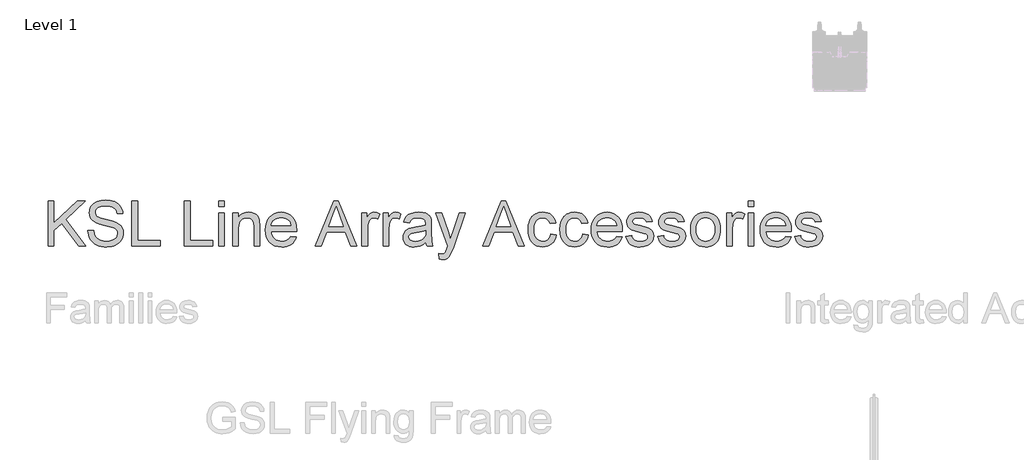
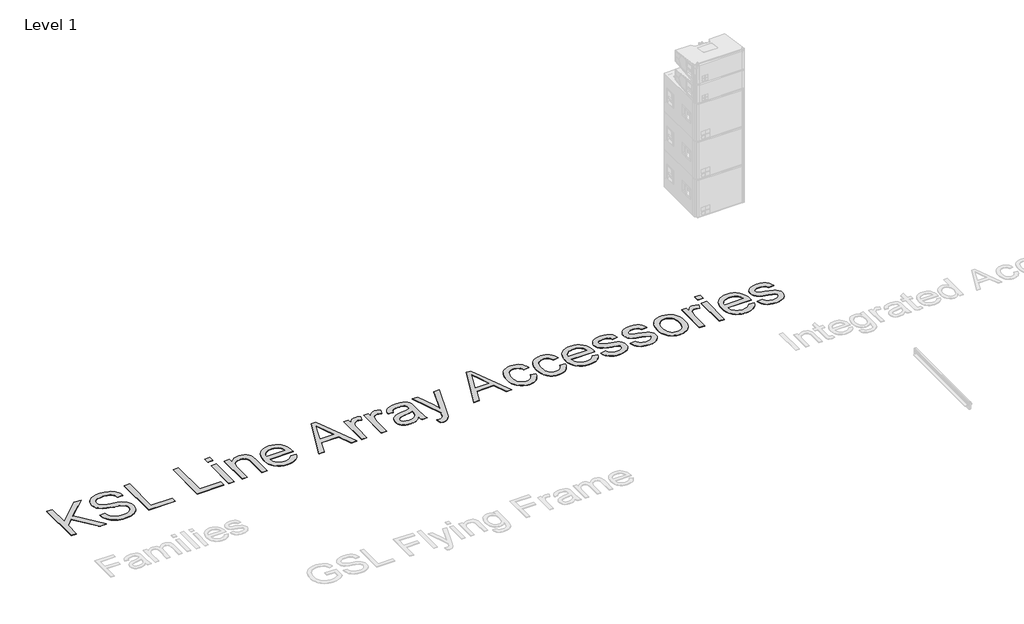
# One storey, part 14 of 52: 1 proxy.
"""IFC4 building model written with IfcOpenShell, lengths in millimetres."""

from ifc_helpers import new_model, si_unit, origin, origin_with_axes, place, context, project, spatial, polyline, outline, extrude, element, save

model = new_model("IFC4")

# Units and contexts
model_context = context("Model", 3, world=origin())
ifc_project = project(units=[si_unit("LENGTHUNIT", "METRE", prefix="MILLI")], contexts=[model_context])

# Site, building, storey
site = spatial("IfcSite", under=ifc_project)
building = spatial("IfcBuilding", under=site)
storey = spatial("IfcBuildingStorey", under=building, Name="Level 1", Elevation=0.0)

# Proxy
placement = place(None, origin())
element("IfcBuildingElementProxy", 1, Name="600mm Arial", ObjectType="600mm Arial", at=placement, inside=storey, context=model_context, shape_type="SweptSolid", body=[
    extrude(outline(polyline([(-21034.9539913, -48567.5695164), (-21034.9539913, -47976.8002857), (-20961.1078374, -47976.8002857), (-20961.1078374, -48265.982978), (-20658.223222, -47976.8002857), (-20554.9539913, -47976.8002857), (-20809.2328374, -48219.684901), (-20545.723222, -48567.5695164), (-20636.0116836, -48567.5695164), (-20861.5886067, -48269.5887472), (-20961.1078374, -48364.4925934), (-20961.1078374, -48567.5695164), (-21034.9539913, -48567.5695164)])), origin_with_axes(), (0.0, 0.0, 1.0), 5.0),
    extrude(outline(polyline([(-20518.0309143, -48364.4925934), (-20444.1847605, -48364.4925934), (-20435.7112028, -48405.4721607), (-20420.3866836, -48438.4108626), (-20396.4804336, -48464.5526895), (-20362.2616836, -48485.1416318), (-20320.4347605, -48498.5010068), (-20273.7039913, -48502.9541318), (-20232.5621643, -48499.5827376), (-20196.5405297, -48489.4685549), (-20167.3518278, -48473.4589395), (-20146.708799, -48452.4012472), (-20134.4311547, -48428.2245645), (-20130.3386067, -48402.857978), (-20133.4035105, -48378.1404299), (-20142.598222, -48356.7762472), (-20161.2761067, -48338.5490837), (-20192.7905297, -48323.2425934), (-20300.3145682, -48295.045478), (-20370.8975009, -48276.3856222), (-20416.0597605, -48258.6272087), (-20452.8205778, -48233.7834587), (-20478.8722605, -48203.6752857), (-20494.395097, -48168.951728), (-20499.5693759, -48130.2618241), (-20497.9693158, -48108.271139), (-20493.1691355, -48087.0106222), (-20485.168835, -48066.4802736), (-20473.9684143, -48046.6800934), (-20459.6940754, -48028.4168722), (-20442.4720201, -48012.497401), (-20422.3022485, -47998.9216799), (-20399.1847605, -47987.6897087), (-20347.2256259, -47972.5995645), (-20289.7136067, -47967.5695164), (-20227.4059143, -47972.8339395), (-20172.8866836, -47988.6272087), (-20149.0345201, -48000.3910309), (-20128.1030297, -48014.6248049), (-20110.0922124, -48031.3285309), (-20095.0020682, -48050.5022087), (-20082.9497845, -48071.5869443), (-20074.052549, -48094.0238434), (-20068.3103615, -48117.8129059), (-20065.723222, -48142.9541318), (-20139.5693759, -48142.9541318), (-20144.5092797, -48119.3904299), (-20153.1270682, -48098.8916318), (-20165.4227413, -48081.4577376), (-20181.396299, -48067.0887472), (-20201.3452172, -48055.856776), (-20225.566972, -48047.8339395), (-20254.0615634, -48043.0202376), (-20286.8289913, -48041.4156703), (-20320.6420922, -48043.0022087), (-20349.5333182, -48047.7618241), (-20373.5026692, -48055.6945164), (-20392.5501451, -48066.8002857), (-20407.0633663, -48080.1506462), (-20417.4299528, -48094.8171126), (-20423.6499047, -48110.7996847), (-20425.723222, -48128.0983626), (-20419.8458182, -48156.4757664), (-20402.2136067, -48179.3002857), (-20386.0237028, -48189.450526), (-20360.5309143, -48199.7089395), (-20281.6366836, -48220.5502857), (-20200.2184143, -48240.3459587), (-20150.9636067, -48257.6175934), (-20108.8662509, -48284.4084587), (-20092.59071, -48300.1566559), (-20079.4972605, -48317.4733626), (-20069.4326571, -48336.2684347), (-20062.2436547, -48356.451728), (-20056.4924528, -48400.982978), (-20058.1465994, -48424.0824371), (-20063.1090393, -48446.5058145), (-20071.3797725, -48468.2531102), (-20082.958799, -48489.3243241), (-20097.6432942, -48508.903651), (-20115.2304336, -48526.1752857), (-20135.7202172, -48541.139228), (-20159.1126451, -48553.795478), (-20184.7271283, -48563.8600813), (-20211.8830778, -48571.0490837), (-20270.8193759, -48576.8002857), (-20308.5943158, -48575.2498049), (-20343.1691355, -48570.5983626), (-20374.543835, -48562.8459587), (-20402.7184143, -48551.9925934), (-20427.8641475, -48538.0202376), (-20450.1523086, -48520.9108626), (-20469.5828975, -48500.6644684), (-20486.1559143, -48477.2810549), (-20499.5062749, -48451.5178337), (-20509.2688951, -48424.1320164), (-20515.4437749, -48395.123603), (-20518.0309143, -48364.4925934)])), origin_with_axes(), (0.0, 0.0, 1.0), 5.0),
    extrude(outline(polyline([(-19945.723222, -48567.5695164), (-19945.723222, -47976.8002857), (-19871.8770682, -47976.8002857), (-19871.8770682, -48493.7233626), (-19576.4924528, -48493.7233626), (-19576.4924528, -48567.5695164), (-19945.723222, -48567.5695164)])), origin_with_axes(), (0.0, 0.0, 1.0), 5.0),
    extrude(outline(polyline([(-19262.646299, -48567.5695164), (-19262.646299, -47976.8002857), (-19188.8001451, -47976.8002857), (-19188.8001451, -48493.7233626), (-18893.4155297, -48493.7233626), (-18893.4155297, -48567.5695164), (-19262.646299, -48567.5695164)])), origin_with_axes(), (0.0, 0.0, 1.0), 5.0),
    extrude(outline(polyline([(-18819.5693759, -48050.6464395), (-18819.5693759, -47976.8002857), (-18745.723222, -47976.8002857), (-18745.723222, -48050.6464395), (-18819.5693759, -48050.6464395)])), origin_with_axes(), (0.0, 0.0, 1.0), 5.0),
    extrude(outline(polyline([(-18819.5693759, -48567.5695164), (-18819.5693759, -48133.7233626), (-18745.723222, -48133.7233626), (-18745.723222, -48567.5695164), (-18819.5693759, -48567.5695164)])), origin_with_axes(), (0.0, 0.0, 1.0), 5.0),
    extrude(outline(polyline([(-18634.9539913, -48567.5695164), (-18634.9539913, -48133.7233626), (-18561.1078374, -48133.7233626), (-18561.1078374, -48194.3002857), (-18535.4527893, -48163.7594203), (-18504.6414913, -48141.9445164), (-18468.6739432, -48128.8555741), (-18427.5501451, -48124.4925934), (-18391.1499047, -48128.0082184), (-18357.8145682, -48138.5550934), (-18330.0140874, -48154.8171126), (-18310.2184143, -48175.4781703), (-18296.786924, -48200.4841799), (-18288.0789913, -48229.7810549), (-18284.1847605, -48301.1752857), (-18284.1847605, -48567.5695164), (-18358.0309143, -48567.5695164), (-18358.0309143, -48311.1272087), (-18360.1583182, -48272.9421126), (-18366.5405297, -48245.7906703), (-18378.3133663, -48226.3375453), (-18396.6126451, -48211.247401), (-18420.068174, -48201.5659107), (-18447.3097605, -48198.3387472), (-18469.7331379, -48200.1506462), (-18490.5609624, -48205.5863434), (-18509.7932341, -48214.6458385), (-18527.4299528, -48227.3291318), (-18542.1640273, -48245.0785309), (-18552.6883663, -48269.3363434), (-18559.0029696, -48300.1025693), (-18561.1078374, -48337.3772087), (-18561.1078374, -48567.5695164), (-18634.9539913, -48567.5695164)])), origin_with_axes(), (0.0, 0.0, 1.0), 5.0),
    extrude(outline(polyline([(-17878.896299, -48438.3387472), (-17806.4924528, -48447.5695164), (-17817.5937148, -48476.5689155), (-17832.5801932, -48502.1248049), (-17851.4518879, -48524.2371847), (-17874.208799, -48542.9060549), (-17900.6165514, -48557.7347809), (-17930.4407701, -48568.326728), (-17963.6814552, -48574.6818962), (-18000.3386067, -48576.8002857), (-18046.1589192, -48573.1449371), (-18086.9852413, -48562.1788914), (-18122.817573, -48543.9021486), (-18153.6559143, -48518.3147087), (-18178.4545922, -48486.1287111), (-18196.1679336, -48448.0562953), (-18206.7959384, -48404.0974611), (-18210.3386067, -48354.2522087), (-18206.7598807, -48302.716752), (-18196.0237028, -48257.2930741), (-18178.130073, -48217.9811751), (-18153.0789913, -48184.7810549), (-18122.3217797, -48158.404853), (-18087.3097605, -48139.5647087), (-18048.0429336, -48128.2606222), (-18004.521299, -48124.4925934), (-17962.4014071, -48128.2516078), (-17924.3109624, -48139.528651), (-17890.2499648, -48158.3237232), (-17860.2184143, -48184.6368241), (-17835.7036908, -48217.7648289), (-17818.193174, -48257.0046126), (-17807.6868639, -48302.3561751), (-17804.1847605, -48353.8195164), (-17804.6174528, -48373.7233626), (-18136.4924528, -48373.7233626), (-18132.2151091, -48403.1915116), (-18123.7100009, -48428.9998049), (-18110.9771283, -48451.1482424), (-18094.0164913, -48469.6368241), (-18073.7655898, -48484.2131462), (-18051.161924, -48494.6248049), (-18026.2054937, -48500.8718001), (-17998.896299, -48502.9541318), (-17959.5934143, -48499.0959587), (-17926.4924528, -48487.5214395), (-17899.5934143, -48467.5094203), (-17878.896299, -48438.3387472)]), holes=[polyline([(-18136.4924528, -48299.8772087), (-17878.0309143, -48299.8772087), (-17888.0188951, -48260.8627857), (-17896.6096403, -48245.5202376), (-17907.598222, -48232.9541318), (-17927.7364432, -48217.809901), (-17950.6511067, -48206.9925934), (-17976.3422124, -48200.5022087), (-18004.8097605, -48198.3387472), (-18030.7758062, -48200.0650092), (-18054.5874047, -48205.2437953), (-18076.2445562, -48213.8751054), (-18095.7472605, -48225.9589395), (-18112.1129456, -48240.9364034), (-18124.3590393, -48258.248603), (-18132.4855417, -48277.8955381), (-18136.4924528, -48299.8772087)])]), origin_with_axes(), (0.0, 0.0, 1.0), 5.0),
    extrude(outline(polyline([(-17559.1366836, -48567.5695164), (-17323.3193759, -47976.8002857), (-17260.4347605, -47976.8002857), (-17024.6174528, -48567.5695164), (-17102.646299, -48567.5695164), (-17170.2905297, -48382.9541318), (-17413.6078374, -48382.9541318), (-17481.1078374, -48567.5695164), (-17559.1366836, -48567.5695164)]), holes=[polyline([(-17386.4924528, -48309.107978), (-17197.2616836, -48309.107978), (-17250.4828374, -48163.8675934), (-17291.8770682, -48050.6464395), (-17328.6559143, -48151.1752857), (-17386.4924528, -48309.107978)])]), origin_with_axes(), (0.0, 0.0, 1.0), 5.0),
    extrude(outline(polyline([(-16954.9539913, -48567.5695164), (-16954.9539913, -48133.7233626), (-16890.3386067, -48133.7233626), (-16890.3386067, -48197.9060549), (-16866.4684143, -48160.6945164), (-16844.473222, -48138.7714395), (-16822.4059143, -48128.0623049), (-16798.3193759, -48124.4925934), (-16761.5405297, -48130.1897087), (-16724.1847605, -48147.2810549), (-16748.848222, -48213.482978), (-16774.8097605, -48202.1248049), (-16800.771299, -48198.3387472), (-16822.8205778, -48201.9805741), (-16842.5261067, -48212.9060549), (-16858.4455778, -48230.2858626), (-16869.1366836, -48253.2906703), (-16878.115049, -48294.5406703), (-16881.1078374, -48339.5406703), (-16881.1078374, -48567.5695164), (-16954.9539913, -48567.5695164)])), origin_with_axes(), (0.0, 0.0, 1.0), 5.0),
    extrude(outline(polyline([(-16678.0309143, -48567.5695164), (-16678.0309143, -48133.7233626), (-16613.4155297, -48133.7233626), (-16613.4155297, -48197.9060549), (-16589.5453374, -48160.6945164), (-16567.5501451, -48138.7714395), (-16545.4828374, -48128.0623049), (-16521.396299, -48124.4925934), (-16484.6174528, -48130.1897087), (-16447.2616836, -48147.2810549), (-16471.9251451, -48213.482978), (-16497.8866836, -48202.1248049), (-16523.848222, -48198.3387472), (-16545.8975009, -48201.9805741), (-16565.6030297, -48212.9060549), (-16581.5225009, -48230.2858626), (-16592.2136067, -48253.2906703), (-16601.191972, -48294.5406703), (-16604.1847605, -48339.5406703), (-16604.1847605, -48567.5695164), (-16678.0309143, -48567.5695164)])), origin_with_axes(), (0.0, 0.0, 1.0), 5.0),
    extrude(outline(polyline([(-16124.1847605, -48512.184901), (-16159.4672124, -48542.4373049), (-16195.7953374, -48562.232978), (-16233.9984624, -48573.1584587), (-16274.9059143, -48576.8002857), (-16307.7860225, -48574.6097809), (-16336.6186547, -48568.0382664), (-16361.403811, -48557.0857424), (-16382.1414913, -48541.7522087), (-16398.5161908, -48523.0112232), (-16410.2124047, -48501.8363434), (-16417.2301331, -48478.2275693), (-16419.5693759, -48452.184901), (-16416.035722, -48421.5719203), (-16405.4347605, -48393.7714395), (-16389.082597, -48369.9733626), (-16368.2953374, -48351.3675934), (-16343.8662509, -48337.3050934), (-16316.5886067, -48327.1368241), (-16252.6943759, -48316.0310549), (-16177.1895682, -48304.3483626), (-16124.6174528, -48290.6464395), (-16124.1847605, -48274.2041318), (-16129.2688951, -48241.247401), (-16135.6240634, -48229.0418722), (-16144.521299, -48219.684901), (-16159.8999047, -48210.3459587), (-16178.6318759, -48203.6752857), (-16226.1559143, -48198.3387472), (-16270.146299, -48201.8904299), (-16300.8674528, -48212.545478), (-16321.816972, -48232.2510068), (-16336.4924528, -48262.9541318), (-16410.3386067, -48253.7233626), (-16397.520097, -48213.3387472), (-16378.3914913, -48181.607978), (-16351.1679336, -48157.341151), (-16314.0645682, -48139.3483626), (-16268.6859624, -48128.2065357), (-16216.6366836, -48124.4925934), (-16166.7148086, -48127.7738434), (-16127.1414913, -48137.6175934), (-16097.3037509, -48152.419276), (-16076.5886067, -48170.5743241), (-16062.8506259, -48193.0202376), (-16053.9443759, -48220.6945164), (-16050.3386067, -48285.309901), (-16050.3386067, -48377.184901), (-16046.5886067, -48505.4781703), (-16041.035722, -48537.1909107), (-16031.8770682, -48567.5695164), (-16105.723222, -48567.5695164), (-16117.5501451, -48541.8964395), (-16124.1847605, -48512.184901)]), holes=[polyline([(-16124.1847605, -48364.4925934), (-16173.8001451, -48376.7882664), (-16243.3193759, -48387.1368241), (-16306.8530297, -48399.107978), (-16323.3854817, -48407.2930741), (-16335.6270682, -48418.5791318), (-16343.1991836, -48432.1007664), (-16345.723222, -48446.9925934), (-16340.224424, -48468.951728), (-16323.7280297, -48486.9445164), (-16296.5946163, -48498.951728), (-16259.1847605, -48502.9541318), (-16219.521299, -48498.5370645), (-16184.473222, -48485.2858626), (-16156.0597605, -48465.7606222), (-16136.3001451, -48442.5214395), (-16127.5381259, -48418.5791318), (-16124.6174528, -48385.4060549), (-16124.1847605, -48364.4925934)])]), origin_with_axes(), (0.0, 0.0, 1.0), 5.0),
    extrude(outline(polyline([(-15948.8001451, -48733.7233626), (-15958.0309143, -48662.6175934), (-15920.5309143, -48669.107978), (-15900.8073567, -48667.0707184), (-15885.4828374, -48660.9589395), (-15873.5477413, -48651.2053337), (-15863.9924528, -48638.2425934), (-15843.8001451, -48583.8675934), (-15838.0309143, -48565.982978), (-15994.9539913, -48133.7233626), (-15917.0693759, -48133.7233626), (-15833.848222, -48374.5887472), (-15804.8578374, -48470.934901), (-15775.8674528, -48385.8387472), (-15690.3386067, -48133.7233626), (-15613.0309143, -48133.7233626), (-15764.0405297, -48577.9541318), (-15803.271299, -48674.3002857), (-15823.3554336, -48705.0574972), (-15846.1078374, -48726.3675934), (-15872.5381259, -48738.8074972), (-15903.6559143, -48742.9541318), (-15925.0381259, -48740.6464395), (-15948.8001451, -48733.7233626)])), origin_with_axes(), (0.0, 0.0, 1.0), 5.0),
    extrude(outline(polyline([(-15380.6751451, -48567.5695164), (-15144.8578374, -47976.8002857), (-15081.973222, -47976.8002857), (-14846.1559143, -48567.5695164), (-14924.1847605, -48567.5695164), (-14991.8289913, -48382.9541318), (-15235.146299, -48382.9541318), (-15302.646299, -48567.5695164), (-15380.6751451, -48567.5695164)]), holes=[polyline([(-15208.0309143, -48309.107978), (-15018.8001451, -48309.107978), (-15072.021299, -48163.8675934), (-15113.4155297, -48050.6464395), (-15150.1943759, -48151.1752857), (-15208.0309143, -48309.107978)])]), origin_with_axes(), (0.0, 0.0, 1.0), 5.0),
    extrude(outline(polyline([(-14499.5693759, -48410.6464395), (-14425.723222, -48419.8772087), (-14433.755073, -48454.7224611), (-14446.3121643, -48485.5562953), (-14463.3944961, -48512.3787111), (-14485.0020682, -48535.1897087), (-14510.224424, -48553.3943361), (-14538.1511067, -48566.3976414), (-14568.7821163, -48574.1996246), (-14602.1174528, -48576.8002857), (-14643.5342196, -48573.1719804), (-14680.6691355, -48562.2870645), (-14713.5222004, -48544.1455381), (-14742.0934143, -48518.747401), (-14765.2199167, -48486.5704179), (-14781.738847, -48448.092353), (-14791.6502052, -48403.3132063), (-14794.9539913, -48352.232978), (-14789.3109624, -48286.5178337), (-14782.2571764, -48256.9460188), (-14772.3818759, -48229.5647087), (-14759.6174528, -48204.9237833), (-14743.896299, -48183.5731222), (-14725.2184143, -48165.5127256), (-14703.583799, -48150.7425934), (-14679.9705177, -48139.2582184), (-14655.3566355, -48131.0550934), (-14629.7421523, -48126.1332184), (-14603.1270682, -48124.4925934), (-14570.3641475, -48126.7461991), (-14540.7292317, -48133.5070164), (-14514.2223206, -48144.7750453), (-14490.8434143, -48160.5502857), (-14470.9891475, -48180.4721607), (-14455.0561547, -48204.1800934), (-14443.044436, -48231.6740837), (-14434.9539913, -48262.9541318), (-14508.8001451, -48272.184901), (-14522.1955778, -48239.967353), (-14543.0549528, -48216.872401), (-14570.224424, -48202.9721607), (-14602.5501451, -48198.3387472), (-14627.6417917, -48200.6193962), (-14650.2725009, -48207.4613434), (-14670.4422725, -48218.8645885), (-14688.1511067, -48234.8291318), (-14702.5696764, -48255.7245645), (-14712.8686547, -48281.920478), (-14719.0480417, -48313.4168722), (-14721.1078374, -48350.2137472), (-14719.0931139, -48387.5650092), (-14713.0489432, -48419.4264876), (-14702.9753254, -48445.7981823), (-14688.8722605, -48466.6800934), (-14671.5149889, -48482.5499852), (-14651.6787509, -48493.8856222), (-14629.3635466, -48500.6870044), (-14604.5693759, -48502.9541318), (-14566.3301932, -48497.2930741), (-14549.7932341, -48490.216752), (-14534.9780297, -48480.309901), (-14522.2992437, -48467.4643482), (-14512.1715393, -48451.5719203), (-14504.5949167, -48432.6326174), (-14499.5693759, -48410.6464395)])), origin_with_axes(), (0.0, 0.0, 1.0), 5.0),
    extrude(outline(polyline([(-14084.1847605, -48410.6464395), (-14010.3386067, -48419.8772087), (-14018.3704576, -48454.7224611), (-14030.927549, -48485.5562953), (-14048.0098807, -48512.3787111), (-14069.6174528, -48535.1897087), (-14094.8398086, -48553.3943361), (-14122.7664913, -48566.3976414), (-14153.3975009, -48574.1996246), (-14186.7328374, -48576.8002857), (-14228.1496042, -48573.1719804), (-14265.2845201, -48562.2870645), (-14298.137585, -48544.1455381), (-14326.708799, -48518.747401), (-14349.8353014, -48486.5704179), (-14366.3542317, -48448.092353), (-14376.2655898, -48403.3132063), (-14379.5693759, -48352.232978), (-14373.926347, -48286.5178337), (-14366.872561, -48256.9460188), (-14356.9972605, -48229.5647087), (-14344.2328374, -48204.9237833), (-14328.5116836, -48183.5731222), (-14309.833799, -48165.5127256), (-14288.1991836, -48150.7425934), (-14264.5859023, -48139.2582184), (-14239.9720201, -48131.0550934), (-14214.3575369, -48126.1332184), (-14187.7424528, -48124.4925934), (-14154.9795321, -48126.7461991), (-14125.3446163, -48133.5070164), (-14098.8377052, -48144.7750453), (-14075.458799, -48160.5502857), (-14055.6045321, -48180.4721607), (-14039.6715393, -48204.1800934), (-14027.6598206, -48231.6740837), (-14019.5693759, -48262.9541318), (-14093.4155297, -48272.184901), (-14106.8109624, -48239.967353), (-14127.6703374, -48216.872401), (-14154.8398086, -48202.9721607), (-14187.1655297, -48198.3387472), (-14212.2571764, -48200.6193962), (-14234.8878855, -48207.4613434), (-14255.0576571, -48218.8645885), (-14272.7664913, -48234.8291318), (-14287.185061, -48255.7245645), (-14297.4840393, -48281.920478), (-14303.6634264, -48313.4168722), (-14305.723222, -48350.2137472), (-14303.7084985, -48387.5650092), (-14297.6643278, -48419.4264876), (-14287.59071, -48445.7981823), (-14273.4876451, -48466.6800934), (-14256.1303735, -48482.5499852), (-14236.2941355, -48493.8856222), (-14213.9789312, -48500.6870044), (-14189.1847605, -48502.9541318), (-14150.9455778, -48497.2930741), (-14134.4086187, -48490.216752), (-14119.5934143, -48480.309901), (-14106.9146283, -48467.4643482), (-14096.786924, -48451.5719203), (-14089.2103014, -48432.6326174), (-14084.1847605, -48410.6464395)])), origin_with_axes(), (0.0, 0.0, 1.0), 5.0),
    extrude(outline(polyline([(-13641.973222, -48438.3387472), (-13569.5693759, -48447.5695164), (-13580.6706379, -48476.5689155), (-13595.6571163, -48502.1248049), (-13614.528811, -48524.2371847), (-13637.285722, -48542.9060549), (-13663.6934744, -48557.7347809), (-13693.5176932, -48568.326728), (-13726.7583783, -48574.6818962), (-13763.4155297, -48576.8002857), (-13809.2358422, -48573.1449371), (-13850.0621643, -48562.1788914), (-13885.8944961, -48543.9021486), (-13916.7328374, -48518.3147087), (-13941.5315153, -48486.1287111), (-13959.2448567, -48448.0562953), (-13969.8728615, -48404.0974611), (-13973.4155297, -48354.2522087), (-13969.8368038, -48302.716752), (-13959.1006259, -48257.2930741), (-13941.2069961, -48217.9811751), (-13916.1559143, -48184.7810549), (-13885.3987028, -48158.404853), (-13850.3866836, -48139.5647087), (-13811.1198567, -48128.2606222), (-13767.598222, -48124.4925934), (-13725.4783302, -48128.2516078), (-13687.3878855, -48139.528651), (-13653.3268879, -48158.3237232), (-13623.2953374, -48184.6368241), (-13598.7806139, -48217.7648289), (-13581.270097, -48257.0046126), (-13570.7637869, -48302.3561751), (-13567.2616836, -48353.8195164), (-13567.6943759, -48373.7233626), (-13899.5693759, -48373.7233626), (-13895.2920321, -48403.1915116), (-13886.786924, -48428.9998049), (-13874.0540514, -48451.1482424), (-13857.0934143, -48469.6368241), (-13836.8425129, -48484.2131462), (-13814.238847, -48494.6248049), (-13789.2824167, -48500.8718001), (-13761.973222, -48502.9541318), (-13722.6703374, -48499.0959587), (-13689.5693759, -48487.5214395), (-13662.6703374, -48467.5094203), (-13641.973222, -48438.3387472)]), holes=[polyline([(-13899.5693759, -48299.8772087), (-13641.1078374, -48299.8772087), (-13651.0958182, -48260.8627857), (-13659.6865634, -48245.5202376), (-13670.6751451, -48232.9541318), (-13690.8133663, -48217.809901), (-13713.7280297, -48206.9925934), (-13739.4191355, -48200.5022087), (-13767.8866836, -48198.3387472), (-13793.8527292, -48200.0650092), (-13817.6643278, -48205.2437953), (-13839.3214792, -48213.8751054), (-13858.8241836, -48225.9589395), (-13875.1898687, -48240.9364034), (-13887.4359624, -48258.248603), (-13895.5624648, -48277.8955381), (-13899.5693759, -48299.8772087)])]), origin_with_axes(), (0.0, 0.0, 1.0), 5.0),
    extrude(outline(polyline([(-13521.1078374, -48438.3387472), (-13447.2616836, -48429.107978), (-13442.7995442, -48445.9469203), (-13435.615049, -48460.6945164), (-13425.708198, -48473.3507664), (-13413.0789913, -48483.9156703), (-13397.6913711, -48492.2449972), (-13379.5092797, -48498.1945164), (-13334.7616836, -48502.9541318), (-13290.5549528, -48498.591151), (-13273.3734624, -48493.1374251), (-13259.473222, -48485.5022087), (-13241.083799, -48466.5358626), (-13234.9539913, -48444.5406703), (-13236.4954576, -48434.5707184), (-13241.1198567, -48425.7185549), (-13259.6174528, -48411.3675934), (-13287.2737028, -48401.9925934), (-13335.6270682, -48390.309901), (-13403.0188951, -48370.8207184), (-13446.8289913, -48354.1800934), (-13474.9720201, -48336.0250453), (-13495.3626451, -48311.9925934), (-13507.7484624, -48283.6151895), (-13511.8770682, -48252.4252857), (-13508.5597605, -48223.8135068), (-13498.6078374, -48197.4012472), (-13482.9227413, -48174.2341799), (-13462.4059143, -48155.357978), (-13442.0152893, -48143.4769684), (-13415.458799, -48133.5070164), (-13384.755674, -48126.7461991), (-13351.9251451, -48124.4925934), (-13303.8602413, -48128.1163914), (-13262.0693759, -48138.9877857), (-13228.4636067, -48156.0430741), (-13204.9539913, -48178.2185549), (-13189.3770682, -48207.154853), (-13179.5693759, -48244.4925934), (-13253.4155297, -48253.7233626), (-13262.7364432, -48230.4841799), (-13281.1799528, -48212.9781703), (-13308.926347, -48201.998603), (-13346.1559143, -48198.3387472), (-13388.5597605, -48201.8363434), (-13416.8289913, -48212.3291318), (-13432.7304336, -48227.4733626), (-13438.0309143, -48244.9252857), (-13435.8313951, -48256.2834587), (-13429.2328374, -48266.4156703), (-13417.9467797, -48275.466151), (-13401.6847605, -48282.7137472), (-13338.0789913, -48298.434901), (-13229.6895682, -48333.1945164), (-13201.0597605, -48349.8171126), (-13179.3530297, -48372.5695164), (-13165.6691355, -48401.5238434), (-13161.1078374, -48436.7522087), (-13166.4624047, -48473.170478), (-13182.5261067, -48507.4252857), (-13208.6859624, -48536.8303337), (-13244.3289913, -48558.6993241), (-13287.3818759, -48572.2750453), (-13335.771299, -48576.8002857), (-13375.5158903, -48574.6187953), (-13410.2304336, -48568.0743241), (-13439.9149288, -48557.1668722), (-13464.5693759, -48541.8964395), (-13484.707597, -48522.3351414), (-13500.8434143, -48498.5550934), (-13512.9768278, -48470.5562953), (-13521.1078374, -48438.3387472)])), origin_with_axes(), (0.0, 0.0, 1.0), 5.0),
    extrude(outline(polyline([(-13105.723222, -48438.3387472), (-13031.8770682, -48429.107978), (-13027.4149288, -48445.9469203), (-13020.2304336, -48460.6945164), (-13010.3235826, -48473.3507664), (-12997.6943759, -48483.9156703), (-12982.3067557, -48492.2449972), (-12964.1246643, -48498.1945164), (-12919.3770682, -48502.9541318), (-12875.1703374, -48498.591151), (-12857.988847, -48493.1374251), (-12844.0886067, -48485.5022087), (-12825.6991836, -48466.5358626), (-12819.5693759, -48444.5406703), (-12821.1108422, -48434.5707184), (-12825.7352413, -48425.7185549), (-12844.2328374, -48411.3675934), (-12871.8890874, -48401.9925934), (-12920.2424528, -48390.309901), (-12987.6342797, -48370.8207184), (-13031.4443759, -48354.1800934), (-13059.5874047, -48336.0250453), (-13079.9780297, -48311.9925934), (-13092.363847, -48283.6151895), (-13096.4924528, -48252.4252857), (-13093.1751451, -48223.8135068), (-13083.223222, -48197.4012472), (-13067.5381259, -48174.2341799), (-13047.021299, -48155.357978), (-13026.630674, -48143.4769684), (-13000.0741836, -48133.5070164), (-12969.3710586, -48126.7461991), (-12936.5405297, -48124.4925934), (-12888.4756259, -48128.1163914), (-12846.6847605, -48138.9877857), (-12813.0789913, -48156.0430741), (-12789.5693759, -48178.2185549), (-12773.9924528, -48207.154853), (-12764.1847605, -48244.4925934), (-12838.0309143, -48253.7233626), (-12847.3518278, -48230.4841799), (-12865.7953374, -48212.9781703), (-12893.5417317, -48201.998603), (-12930.771299, -48198.3387472), (-12973.1751451, -48201.8363434), (-13001.4443759, -48212.3291318), (-13017.3458182, -48227.4733626), (-13022.646299, -48244.9252857), (-13020.4467797, -48256.2834587), (-13013.848222, -48266.4156703), (-13002.5621643, -48275.466151), (-12986.3001451, -48282.7137472), (-12922.6943759, -48298.434901), (-12814.3049528, -48333.1945164), (-12785.6751451, -48349.8171126), (-12763.9684143, -48372.5695164), (-12750.2845201, -48401.5238434), (-12745.723222, -48436.7522087), (-12751.0777893, -48473.170478), (-12767.1414913, -48507.4252857), (-12793.301347, -48536.8303337), (-12828.9443759, -48558.6993241), (-12871.9972605, -48572.2750453), (-12920.3866836, -48576.8002857), (-12960.1312749, -48574.6187953), (-12994.8458182, -48568.0743241), (-13024.5303134, -48557.1668722), (-13049.1847605, -48541.8964395), (-13069.3229817, -48522.3351414), (-13085.458799, -48498.5550934), (-13097.5922124, -48470.5562953), (-13105.723222, -48438.3387472)])), origin_with_axes(), (0.0, 0.0, 1.0), 5.0),
    extrude(outline(polyline([(-12681.1078374, -48350.6464395), (-12677.114448, -48294.4595405), (-12665.1342797, -48246.0430741), (-12645.1673326, -48205.3970405), (-12617.2136067, -48172.5214395), (-12589.0705778, -48151.5088193), (-12558.0068759, -48136.4998049), (-12524.0225009, -48127.4943962), (-12487.1174528, -48124.4925934), (-12446.3767677, -48128.1479419), (-12409.5393278, -48139.1139876), (-12376.6051331, -48157.3907304), (-12347.5741836, -48182.9781703), (-12323.8797725, -48215.0109227), (-12306.9551932, -48252.623603), (-12296.8004456, -48295.8162111), (-12293.4155297, -48344.5887472), (-12294.911924, -48384.1169924), (-12299.4011067, -48419.1921126), (-12306.8830778, -48449.8141078), (-12317.3578374, -48475.982978), (-12330.6946764, -48498.5866438), (-12346.7628855, -48518.513026), (-12365.5624648, -48535.7621246), (-12387.0934143, -48550.3339395), (-12410.5173927, -48561.9129659), (-12434.9960586, -48570.1836991), (-12460.5294119, -48575.146139), (-12487.1174528, -48576.8002857), (-12528.4530898, -48573.1584587), (-12565.6330778, -48562.232978), (-12598.6574167, -48544.0238434), (-12627.5261067, -48518.5310549), (-12650.9681139, -48486.1873049), (-12667.7124047, -48447.4252857), (-12677.7589792, -48402.2449972), (-12681.1078374, -48350.6464395)]), holes=[polyline([(-12607.2616836, -48350.5022087), (-12605.1252653, -48386.3210188), (-12598.7160105, -48417.3351414), (-12588.0339192, -48443.5445765), (-12573.0789913, -48464.9493241), (-12554.8878855, -48481.5764275), (-12534.4972605, -48493.4529299), (-12511.9071163, -48500.5788313), (-12487.1174528, -48502.9541318), (-12462.4539913, -48500.5653097), (-12439.9539913, -48493.3988434), (-12419.6174528, -48481.4547328), (-12401.4443759, -48464.732978), (-12386.489448, -48443.1163914), (-12375.8073567, -48416.4877857), (-12369.3981018, -48384.8471607), (-12367.2616836, -48348.1945164), (-12369.4116235, -48313.5115236), (-12375.8614432, -48283.3086991), (-12386.6111427, -48257.5860429), (-12401.660722, -48236.3435549), (-12419.9014071, -48219.7164515), (-12440.224424, -48207.8399491), (-12462.6297725, -48200.7140477), (-12487.1174528, -48198.3387472), (-12511.9071163, -48200.7050333), (-12534.4972605, -48207.8038914), (-12554.8878855, -48219.6353217), (-12573.0789913, -48236.1993241), (-12588.0339192, -48257.5409708), (-12598.7160105, -48283.7053337), (-12605.1252653, -48314.6924131), (-12607.2616836, -48350.5022087)])]), origin_with_axes(), (0.0, 0.0, 1.0), 5.0),
    extrude(outline(polyline([(-12210.3386067, -48567.5695164), (-12210.3386067, -48133.7233626), (-12145.723222, -48133.7233626), (-12145.723222, -48197.9060549), (-12121.8530297, -48160.6945164), (-12099.8578374, -48138.7714395), (-12077.7905297, -48128.0623049), (-12053.7039913, -48124.4925934), (-12016.9251451, -48130.1897087), (-11979.5693759, -48147.2810549), (-12004.2328374, -48213.482978), (-12030.1943759, -48202.1248049), (-12056.1559143, -48198.3387472), (-12078.2051932, -48201.9805741), (-12097.910722, -48212.9060549), (-12113.8301932, -48230.2858626), (-12124.521299, -48253.2906703), (-12133.4996643, -48294.5406703), (-12136.4924528, -48339.5406703), (-12136.4924528, -48567.5695164), (-12210.3386067, -48567.5695164)])), origin_with_axes(), (0.0, 0.0, 1.0), 5.0),
    extrude(outline(polyline([(-11933.4155297, -48567.5695164), (-11933.4155297, -48133.7233626), (-11859.5693759, -48133.7233626), (-11859.5693759, -48567.5695164), (-11933.4155297, -48567.5695164)])), origin_with_axes(), (0.0, 0.0, 1.0), 5.0),
    extrude(outline(polyline([(-11933.4155297, -48050.6464395), (-11933.4155297, -47976.8002857), (-11859.5693759, -47976.8002857), (-11859.5693759, -48050.6464395), (-11933.4155297, -48050.6464395)])), origin_with_axes(), (0.0, 0.0, 1.0), 5.0),
    extrude(outline(polyline([(-11445.0501451, -48438.3387472), (-11372.646299, -48447.5695164), (-11383.747561, -48476.5689155), (-11398.7340393, -48502.1248049), (-11417.6057341, -48524.2371847), (-11440.3626451, -48542.9060549), (-11466.7703975, -48557.7347809), (-11496.5946163, -48568.326728), (-11529.8353014, -48574.6818962), (-11566.4924528, -48576.8002857), (-11612.3127653, -48573.1449371), (-11653.1390874, -48562.1788914), (-11688.9714192, -48543.9021486), (-11719.8097605, -48518.3147087), (-11744.6084384, -48486.1287111), (-11762.3217797, -48448.0562953), (-11772.9497845, -48404.0974611), (-11776.4924528, -48354.2522087), (-11772.9137268, -48302.716752), (-11762.177549, -48257.2930741), (-11744.2839192, -48217.9811751), (-11719.2328374, -48184.7810549), (-11688.4756259, -48158.404853), (-11653.4636067, -48139.5647087), (-11614.1967797, -48128.2606222), (-11570.6751451, -48124.4925934), (-11528.5552533, -48128.2516078), (-11490.4648086, -48139.528651), (-11456.403811, -48158.3237232), (-11426.3722605, -48184.6368241), (-11401.8575369, -48217.7648289), (-11384.3470201, -48257.0046126), (-11373.84071, -48302.3561751), (-11370.3386067, -48353.8195164), (-11370.771299, -48373.7233626), (-11702.646299, -48373.7233626), (-11698.3689552, -48403.1915116), (-11689.863847, -48428.9998049), (-11677.1309744, -48451.1482424), (-11660.1703374, -48469.6368241), (-11639.919436, -48484.2131462), (-11617.3157701, -48494.6248049), (-11592.3593398, -48500.8718001), (-11565.0501451, -48502.9541318), (-11525.7472605, -48499.0959587), (-11492.646299, -48487.5214395), (-11465.7472605, -48467.5094203), (-11445.0501451, -48438.3387472)]), holes=[polyline([(-11702.646299, -48299.8772087), (-11444.1847605, -48299.8772087), (-11454.1727413, -48260.8627857), (-11462.7634865, -48245.5202376), (-11473.7520682, -48232.9541318), (-11493.8902893, -48217.809901), (-11516.8049528, -48206.9925934), (-11542.4960586, -48200.5022087), (-11570.9636067, -48198.3387472), (-11596.9296523, -48200.0650092), (-11620.7412509, -48205.2437953), (-11642.3984023, -48213.8751054), (-11661.9011067, -48225.9589395), (-11678.2667917, -48240.9364034), (-11690.5128855, -48258.248603), (-11698.6393879, -48277.8955381), (-11702.646299, -48299.8772087)])]), origin_with_axes(), (0.0, 0.0, 1.0), 5.0),
    extrude(outline(polyline([(-11324.1847605, -48438.3387472), (-11250.3386067, -48429.107978), (-11245.8764672, -48445.9469203), (-11238.691972, -48460.6945164), (-11228.7851211, -48473.3507664), (-11216.1559143, -48483.9156703), (-11200.7682942, -48492.2449972), (-11182.5862028, -48498.1945164), (-11137.8386067, -48502.9541318), (-11093.6318759, -48498.591151), (-11076.4503855, -48493.1374251), (-11062.5501451, -48485.5022087), (-11044.160722, -48466.5358626), (-11038.0309143, -48444.5406703), (-11039.5723807, -48434.5707184), (-11044.1967797, -48425.7185549), (-11062.6943759, -48411.3675934), (-11090.3506259, -48401.9925934), (-11138.7039913, -48390.309901), (-11206.0958182, -48370.8207184), (-11249.9059143, -48354.1800934), (-11278.0489432, -48336.0250453), (-11298.4395682, -48311.9925934), (-11310.8253855, -48283.6151895), (-11314.9539913, -48252.4252857), (-11311.6366836, -48223.8135068), (-11301.6847605, -48197.4012472), (-11285.9996643, -48174.2341799), (-11265.4828374, -48155.357978), (-11245.0922124, -48143.4769684), (-11218.535722, -48133.5070164), (-11187.832597, -48126.7461991), (-11155.0020682, -48124.4925934), (-11106.9371643, -48128.1163914), (-11065.146299, -48138.9877857), (-11031.5405297, -48156.0430741), (-11008.0309143, -48178.2185549), (-10992.4539913, -48207.154853), (-10982.646299, -48244.4925934), (-11056.4924528, -48253.7233626), (-11065.8133663, -48230.4841799), (-11084.2568759, -48212.9781703), (-11112.0032701, -48201.998603), (-11149.2328374, -48198.3387472), (-11191.6366836, -48201.8363434), (-11219.9059143, -48212.3291318), (-11235.8073567, -48227.4733626), (-11241.1078374, -48244.9252857), (-11238.9083182, -48256.2834587), (-11232.3097605, -48266.4156703), (-11221.0237028, -48275.466151), (-11204.7616836, -48282.7137472), (-11141.1559143, -48298.434901), (-11032.7664913, -48333.1945164), (-11004.1366836, -48349.8171126), (-10982.4299528, -48372.5695164), (-10968.7460586, -48401.5238434), (-10964.1847605, -48436.7522087), (-10969.5393278, -48473.170478), (-10985.6030297, -48507.4252857), (-11011.7628855, -48536.8303337), (-11047.4059143, -48558.6993241), (-11090.458799, -48572.2750453), (-11138.848222, -48576.8002857), (-11178.5928134, -48574.6187953), (-11213.3073567, -48568.0743241), (-11242.9918518, -48557.1668722), (-11267.646299, -48541.8964395), (-11287.7845201, -48522.3351414), (-11303.9203374, -48498.5550934), (-11316.0537509, -48470.5562953), (-11324.1847605, -48438.3387472)])), origin_with_axes(), (0.0, 0.0, 1.0), 5.0),
])

save(model, "model.ifc")
